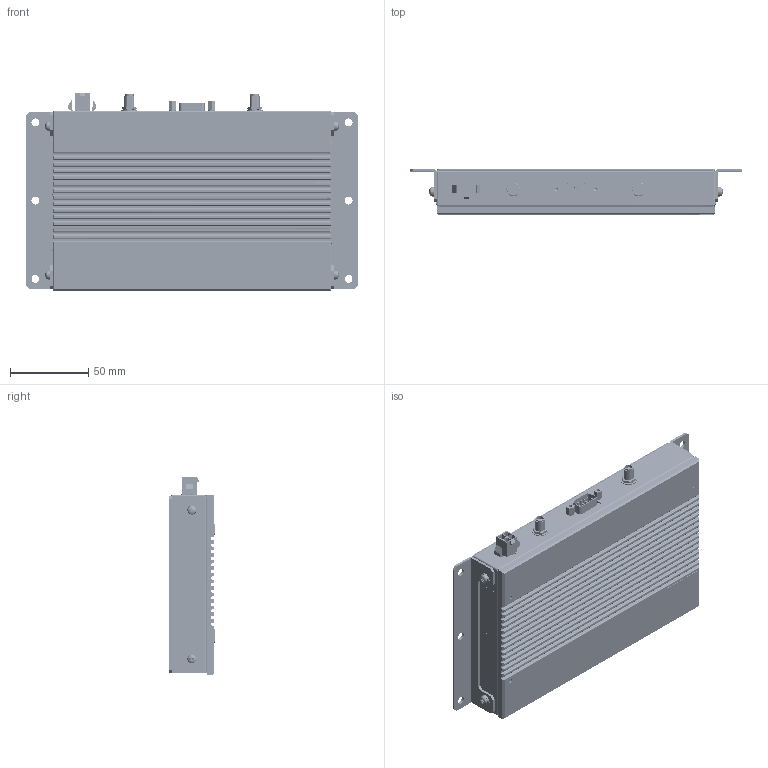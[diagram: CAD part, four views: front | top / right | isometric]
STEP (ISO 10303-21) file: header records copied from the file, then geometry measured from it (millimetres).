
FILE_DESCRIPTION(/* description */ (''),/* implementation_level */ '2;1');
FILE_NAME(/* name */ 'C:\000_Vault_Work\ITEM\300_BOX-PC\BX-T3020\BX-T3020.stp',/* time_stamp */ '2024-10-09T11:44:29+09:00',/* author */ ('195140'),/* organization */ (''),/* preprocessor_version */ 'ST-DEVELOPER v19',/* originating_system */ 'Autodesk Inventor 2023',/* authorisation */ '');
FILE_SCHEMA (('AUTOMOTIVE_DESIGN { 1 0 10303 214 3 1 1 }'));
Products named in the file (4): Assembly1; BX-T3020_Assembly_2_簡略化_1; LYLF921_BX200 SET-BKT; SEMS_PAN_SW+PSW_M3X6_S_+3BLACK
Assembly tree (7 placements, depth 2):
  Assembly1
    BX-T3020_Assembly_2_簡略化_1
    LYLF921_BX200 SET-BKT  x2
    SEMS_PAN_SW+PSW_M3X6_S_+3BLACK  x4
Bounding box: 212 x 29.3 x 126 mm (x, y, z)
Volume: 695434.3 mm3; surface area: 267901.7 mm2
Topology: 39 solids, 40 shells, 21583 faces, 62951 edges, 41070 vertices
Faces by surface type: plane 16342, cylinder 4693, bspline 349, torus 111, cone 78, sphere 10
Full cylindrical faces by diameter (mm): 0.4 x2, 0.5 x28, 0.6 x16, 0.65 x2, 0.66 x32, 0.7 x2, 0.8 x20, 0.838 x38, 0.9 x6, 0.95 x2, 1 x18, 1.118 x2, 1.13 x2, 1.143 x7, 1.168 x2, 1.2 x3, 1.219 x36, 1.27 x2, 1.4 x1, 1.422 x20, 1.45 x2, 1.524 x1, 1.6 x2, 1.651 x2, 1.7 x2, 1.727 x2, 1.854 x2, 2 x1, 2.032 x2, 2.156 x2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
Entity records: 746853 total; most frequent: CARTESIAN_POINT 145829, ORIENTED_EDGE 125622, DIRECTION 114279, EDGE_CURVE 62811, LINE 51993, VECTOR 51993, VERTEX_POINT 41012, AXIS2_PLACEMENT_3D 31143
